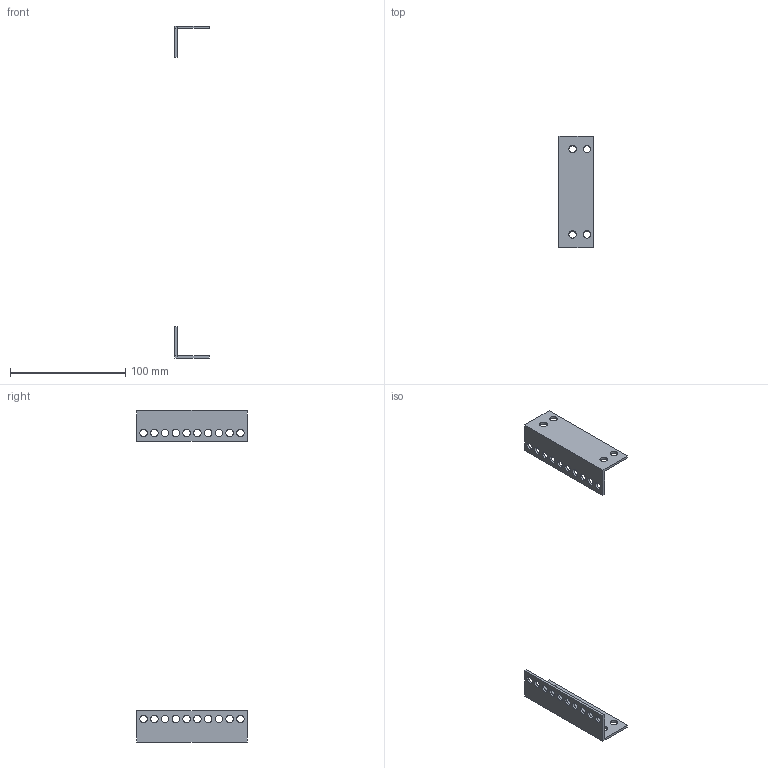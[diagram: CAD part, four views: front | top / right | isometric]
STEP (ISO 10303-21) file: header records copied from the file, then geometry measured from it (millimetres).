
FILE_DESCRIPTION(('Open CASCADE Model'),'2;1');
FILE_NAME('Open CASCADE Shape Model','2025-03-10T09:46:08',('Author'),( 'Open CASCADE'),'Open CASCADE STEP processor 7.8','Open CASCADE 7.8' ,'Unknown');
FILE_SCHEMA(('AUTOMOTIVE_DESIGN { 1 0 10303 214 1 1 1 1 }'));
Length unit declared in the file: millimetre
Products named in the file (1): Solid1
Bounding box: 30 x 96 x 287.88 mm (x, y, z)
Volume: 19261.7 mm3; surface area: 21613.3 mm2
Topology: 2 solids, 2 shells, 80 faces, 228 edges, 152 vertices
Faces by surface type: cylinder 56, plane 24
Entity records: 2784 total; most frequent: DIRECTION 502, CARTESIAN_POINT 461, ORIENTED_EDGE 456, EDGE_CURVE 228, AXIS2_PLACEMENT_3D 193, VERTEX_POINT 152, FACE_BOUND 136, EDGE_LOOP 136
